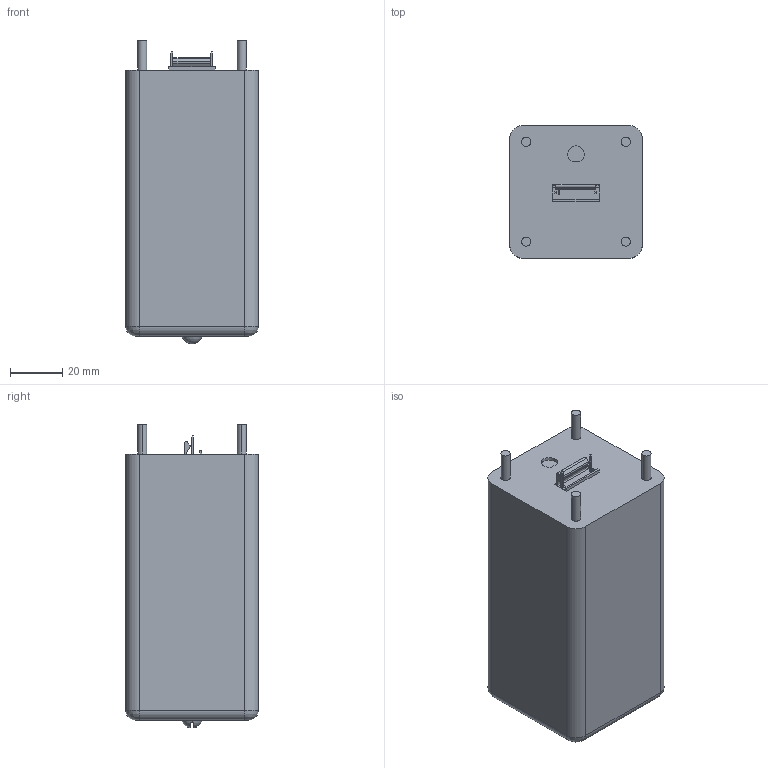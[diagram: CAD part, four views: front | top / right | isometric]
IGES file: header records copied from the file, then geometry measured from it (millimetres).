
Start section:  PTC IGES file: sc10_asm.igs
Global section: file name: sc10_asm.igs; native system: Pro/ENGINEER by Parametric Technology Corporation; preprocessor: 9639; author: Jeff; date: 970220.032252; units: inch
Bounding box: 50.8 x 50.8 x 116.02 mm (x, y, z)
Surface area: 26121.8 mm2 (no closed solid volume)
Topology: 0 solids, 0 shells, 120 faces, 566 edges, 566 vertices
Faces by surface type: bspline 86, revolution 34
